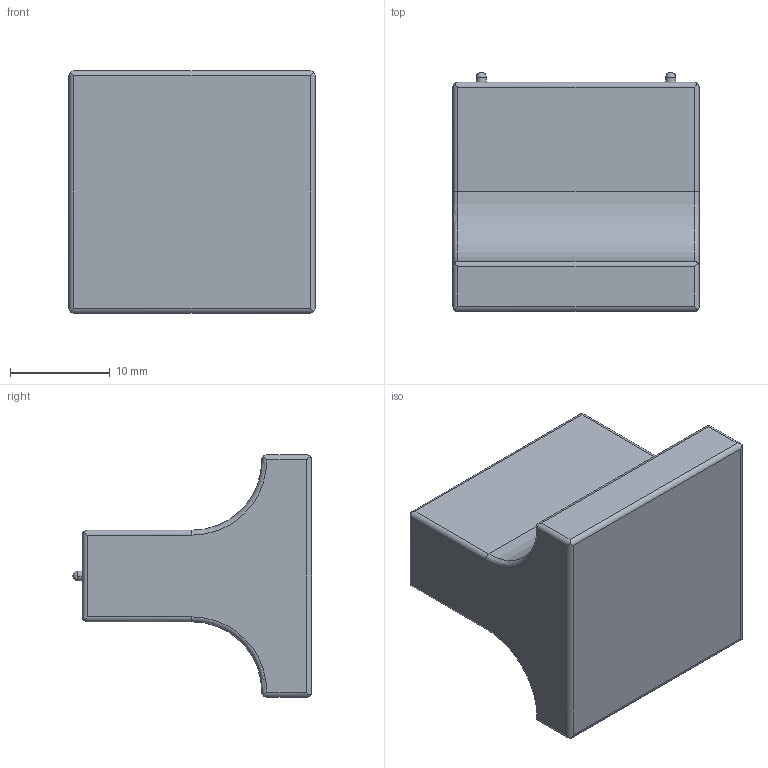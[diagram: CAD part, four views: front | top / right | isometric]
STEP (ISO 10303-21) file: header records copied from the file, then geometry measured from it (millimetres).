
FILE_DESCRIPTION( ( '' ), '1' );
FILE_NAME( 'C:/Documents and Settings/Nikhil/Desktop/Nik/Done/1170173.stp', '2013-10-23T12:34:59', ( '' ), ( '' ), ' ', ' ', ' ' );
FILE_SCHEMA( ( 'automotive_design' ) );
Length unit declared in the file: millimetre
Products named in the file (1): 1
Bounding box: 24.7 x 24 x 24.3 mm (x, y, z)
Volume: 7469.3 mm3; surface area: 2865.3 mm2
Topology: 1 solids, 1 shells, 43 faces, 118 edges, 76 vertices
Faces by surface type: cylinder 26, plane 11, torus 4, sphere 2
Entity records: 2802 total; most frequent: CARTESIAN_POINT 378, DIRECTION 246, STYLED_ITEM 234, PRESENTATION_STYLE_ASSIGNMENT 234, COLOUR_RGB 234, ORIENTED_EDGE 228, EDGE_CURVE 114, CURVE_STYLE 114
